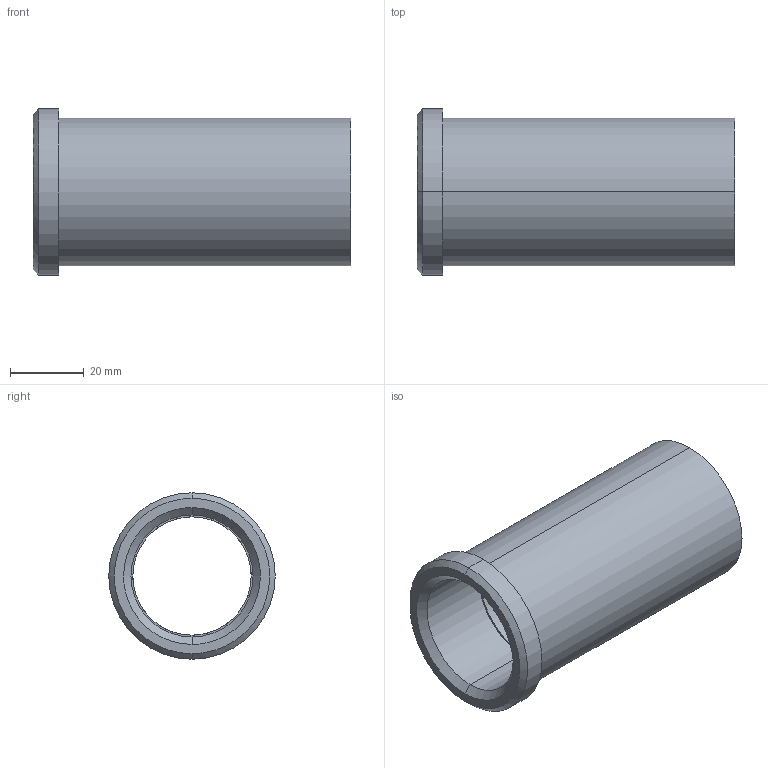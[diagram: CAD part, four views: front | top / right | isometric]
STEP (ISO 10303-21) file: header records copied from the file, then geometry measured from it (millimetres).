
FILE_DESCRIPTION(('CATIA V5 STEP Exchange'),'2;1');
FILE_NAME('C:\Users\Utente\Desktop\IO LAVORO\3D X SITO CF\X SITO\PLASTICA\353\353-32X86.stp','2021-05-12T18:53:41+00:00',('none'),('none'),'CATIA Version 5 Release 20 GA (IN-10)','CATIA V5 STEP AP203','none');
FILE_SCHEMA(('CONFIG_CONTROL_DESIGN'));
Length unit declared in the file: millimetre
Products named in the file (1): 353-32X86
Bounding box: 86 x 45 x 45 mm (x, y, z)
Volume: 39659 mm3; surface area: 20876.3 mm2
Topology: 1 solids, 1 shells, 18 faces, 58 edges, 44 vertices
Faces by surface type: cylinder 8, plane 4, cone 4, torus 2
Entity records: 840 total; most frequent: CARTESIAN_POINT 289, ORIENTED_EDGE 116, DIRECTION 82, EDGE_CURVE 58, AXIS2_PLACEMENT_3D 53, VERTEX_POINT 44, CIRCLE 34, EDGE_LOOP 22
